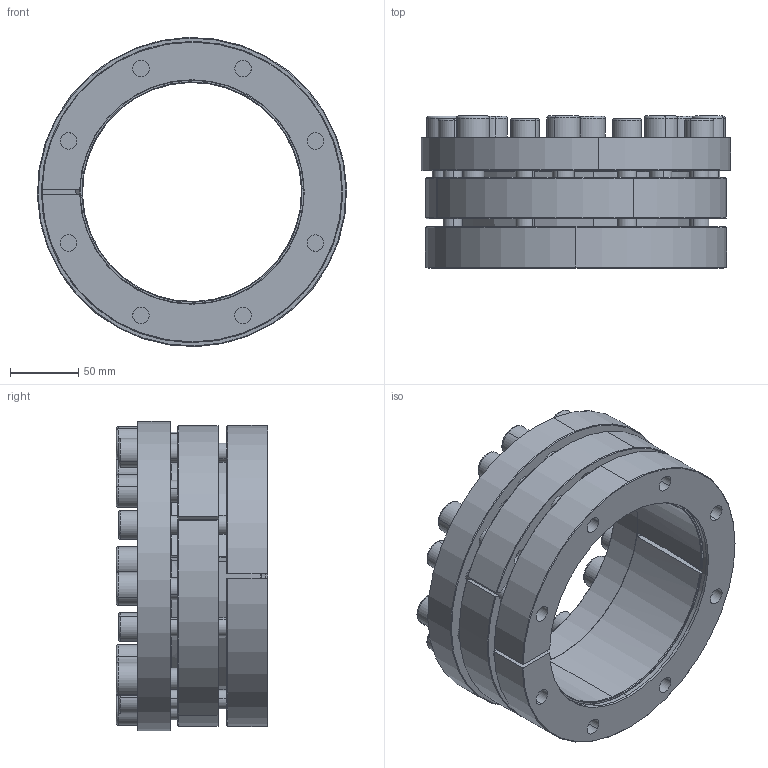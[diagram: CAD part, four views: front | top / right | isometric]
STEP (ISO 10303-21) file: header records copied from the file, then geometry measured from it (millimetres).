
FILE_DESCRIPTION (( 'STEP AP214' ), '1' );
FILE_NAME ('CONEX-P-160x220-P-025.step', '2015-11-30T21:13:38', ( '' ), ( '' ), 'SwSTEP 2.0', 'SolidWorks 2013', '' );
FILE_SCHEMA (( 'AUTOMOTIVE_DESIGN' ));
Length unit declared in the file: millimetre
Products named in the file (1): CONEX-P-160x220-P-025
Bounding box: 225.92 x 111 x 225.92 mm (x, y, z)
Volume: 1626734 mm3; surface area: 392402.4 mm2
Topology: 19 solids, 19 shells, 609 faces, 1419 edges, 849 vertices
Faces by surface type: plane 261, cylinder 171, cone 111, torus 66
Entity records: 24957 total; most frequent: CARTESIAN_POINT 3832, DIRECTION 3174, ORIENTED_EDGE 2774, EDGE_CURVE 1387, AXIS2_PLACEMENT_3D 1269, VERTEX_POINT 849, EDGE_LOOP 730, CIRCLE 659
